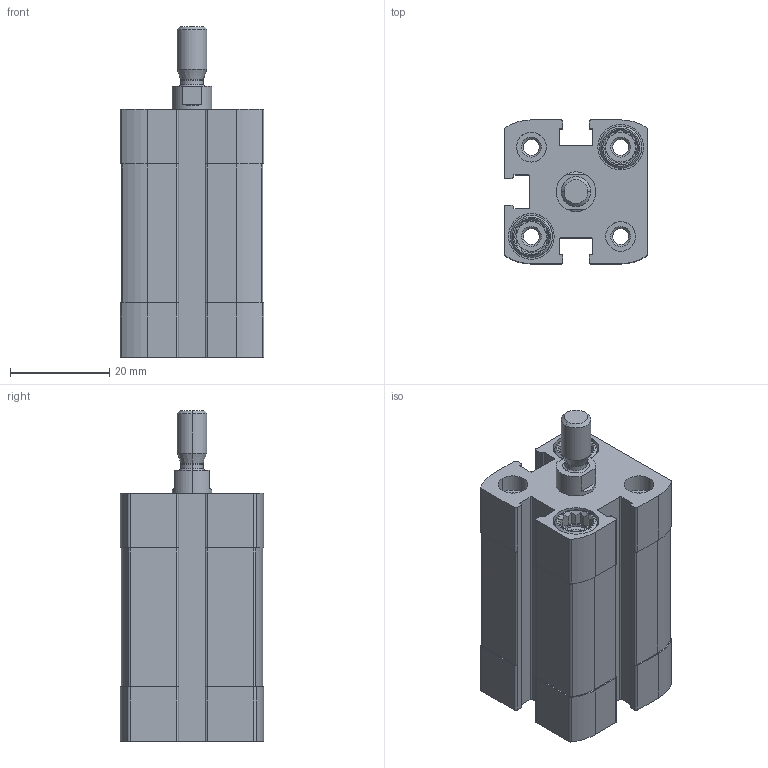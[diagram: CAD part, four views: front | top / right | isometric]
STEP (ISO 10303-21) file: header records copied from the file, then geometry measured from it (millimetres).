
FILE_DESCRIPTION (( 'STEP AP203' ), '1' );
FILE_NAME ('CCN16-15M.STEP', '2017-03-28T14:19:13', ( '' ), ( '' ), 'SwSTEP 2.0', 'SolidWorks 2016', '' );
FILE_SCHEMA (( 'CONFIG_CONTROL_DESIGN' ));
Length unit declared in the file: millimetre
Products named in the file (3): CCN-15---(Z); CCN-15_(KS); CCN16-15M
Assembly tree (2 placements, depth 2):
  CCN16-15M
    CCN-15---(Z)
    CCN-15_(KS)
Bounding box: 29 x 29 x 66.7 mm (x, y, z)
Volume: 30915.4 mm3; surface area: 16090.9 mm2
Topology: 2 solids, 2 shells, 365 faces, 940 edges, 614 vertices
Faces by surface type: plane 187, cylinder 134, cone 40, bspline 4
Entity records: 11593 total; most frequent: CARTESIAN_POINT 2284, DIRECTION 1894, ORIENTED_EDGE 1880, EDGE_CURVE 940, AXIS2_PLACEMENT_3D 688, VERTEX_POINT 614, VECTOR 518, LINE 518
